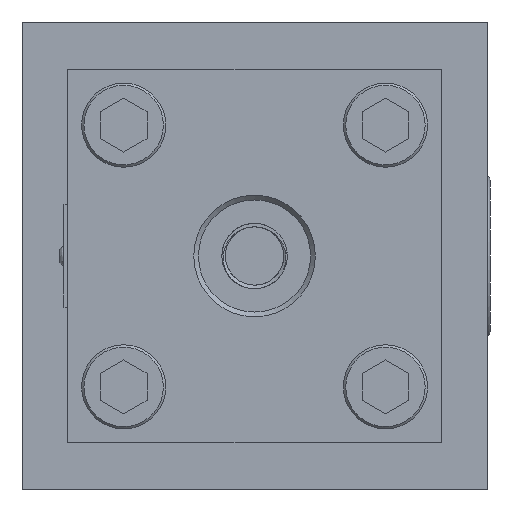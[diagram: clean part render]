
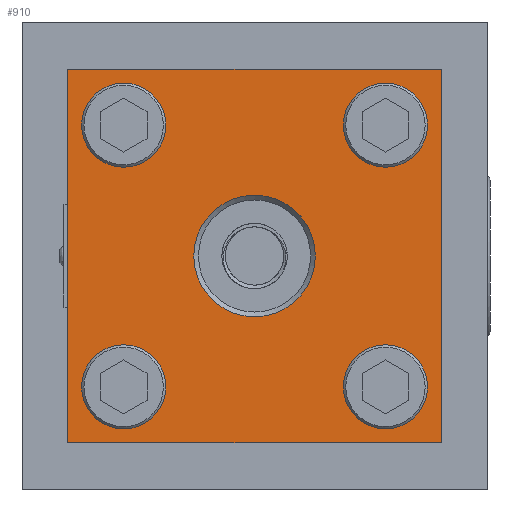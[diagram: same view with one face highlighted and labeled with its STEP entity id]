
A CAD part, left-side view. The second image highlights one B-rep face of the part: STEP entity #910.
In plain terms, the highlighted planar face has unit normal (-1, 0, 0).
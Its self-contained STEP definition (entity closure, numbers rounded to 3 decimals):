
#302=PLANE('',#2960);
#394=LINE('',#4566,#538);
#395=LINE('',#4569,#539);
#396=LINE('',#4571,#540);
#397=LINE('',#4573,#541);
#538=VECTOR('',#3243,1.);
#539=VECTOR('',#3244,1.);
#540=VECTOR('',#3245,1.);
#541=VECTOR('',#3246,1.);
#682=FACE_BOUND('',#1239,.T.);
#683=FACE_BOUND('',#1240,.T.);
#684=FACE_BOUND('',#1241,.T.);
#685=FACE_BOUND('',#1242,.T.);
#686=FACE_BOUND('',#1243,.T.);
#687=FACE_BOUND('',#1244,.T.);
#910=ADVANCED_FACE('',(#682,#683,#684,#685,#686,#687),#302,.F.);
#1239=EDGE_LOOP('',(#1616));
#1240=EDGE_LOOP('',(#1617));
#1241=EDGE_LOOP('',(#1618));
#1242=EDGE_LOOP('',(#1619));
#1243=EDGE_LOOP('',(#1620));
#1244=EDGE_LOOP('',(#1621,#1622,#1623,#1624));
#1616=ORIENTED_EDGE('',*,*,#2527,.T.);
#1617=ORIENTED_EDGE('',*,*,#2528,.T.);
#1618=ORIENTED_EDGE('',*,*,#2529,.T.);
#1619=ORIENTED_EDGE('',*,*,#2530,.T.);
#1620=ORIENTED_EDGE('',*,*,#2531,.F.);
#1621=ORIENTED_EDGE('',*,*,#2532,.T.);
#1622=ORIENTED_EDGE('',*,*,#2533,.F.);
#1623=ORIENTED_EDGE('',*,*,#2534,.F.);
#1624=ORIENTED_EDGE('',*,*,#2535,.T.);
#2264=VERTEX_POINT('',#4557);
#2265=VERTEX_POINT('',#4559);
#2266=VERTEX_POINT('',#4561);
#2267=VERTEX_POINT('',#4563);
#2268=VERTEX_POINT('',#4565);
#2269=VERTEX_POINT('',#4567);
#2270=VERTEX_POINT('',#4568);
#2271=VERTEX_POINT('',#4570);
#2272=VERTEX_POINT('',#4572);
#2527=EDGE_CURVE('',#2264,#2264,#2847,.T.);
#2528=EDGE_CURVE('',#2265,#2265,#2848,.T.);
#2529=EDGE_CURVE('',#2266,#2266,#2849,.T.);
#2530=EDGE_CURVE('',#2267,#2267,#2850,.T.);
#2531=EDGE_CURVE('',#2268,#2268,#2851,.T.);
#2532=EDGE_CURVE('',#2269,#2270,#394,.T.);
#2533=EDGE_CURVE('',#2271,#2270,#395,.T.);
#2534=EDGE_CURVE('',#2272,#2271,#396,.T.);
#2535=EDGE_CURVE('',#2272,#2269,#397,.T.);
#2847=CIRCLE('',#2955,9.);
#2848=CIRCLE('',#2956,9.);
#2849=CIRCLE('',#2957,9.);
#2850=CIRCLE('',#2958,9.);
#2851=CIRCLE('',#2959,13.);
#2955=AXIS2_PLACEMENT_3D('',#4556,#3233,#3234);
#2956=AXIS2_PLACEMENT_3D('',#4558,#3235,#3236);
#2957=AXIS2_PLACEMENT_3D('',#4560,#3237,#3238);
#2958=AXIS2_PLACEMENT_3D('',#4562,#3239,#3240);
#2959=AXIS2_PLACEMENT_3D('',#4564,#3241,#3242);
#2960=AXIS2_PLACEMENT_3D('',#4574,#3247,#3248);
#3233=DIRECTION('',(1.,0.,0.));
#3234=DIRECTION('',(0.,0.,-1.));
#3235=DIRECTION('',(1.,0.,0.));
#3236=DIRECTION('',(0.,0.,-1.));
#3237=DIRECTION('',(1.,0.,0.));
#3238=DIRECTION('',(0.,0.,-1.));
#3239=DIRECTION('',(1.,0.,0.));
#3240=DIRECTION('',(0.,0.,-1.));
#3241=DIRECTION('',(-1.,0.,0.));
#3242=DIRECTION('',(0.,0.,1.));
#3243=DIRECTION('',(0.,-1.,0.));
#3244=DIRECTION('',(0.,0.,-1.));
#3245=DIRECTION('',(0.,-1.,0.));
#3246=DIRECTION('',(0.,0.,-1.));
#3247=DIRECTION('',(1.,0.,0.));
#3248=DIRECTION('',(0.,0.,1.));
#4556=CARTESIAN_POINT('',(-20.228,237.661,-28.));
#4557=CARTESIAN_POINT('',(-20.228,237.661,-37.));
#4558=CARTESIAN_POINT('',(-20.228,237.661,28.));
#4559=CARTESIAN_POINT('',(-20.228,237.661,19.));
#4560=CARTESIAN_POINT('',(-20.228,293.661,-28.));
#4561=CARTESIAN_POINT('',(-20.228,293.661,-37.));
#4562=CARTESIAN_POINT('',(-20.228,293.661,28.));
#4563=CARTESIAN_POINT('',(-20.228,293.661,19.));
#4564=CARTESIAN_POINT('',(-20.228,265.661,0.));
#4565=CARTESIAN_POINT('',(-20.228,265.661,13.));
#4566=CARTESIAN_POINT('',(-20.228,304.661,-40.));
#4567=CARTESIAN_POINT('',(-20.228,305.661,-40.));
#4568=CARTESIAN_POINT('',(-20.228,225.661,-40.));
#4569=CARTESIAN_POINT('',(-20.228,225.661,40.));
#4570=CARTESIAN_POINT('',(-20.228,225.661,40.));
#4571=CARTESIAN_POINT('',(-20.228,304.661,40.));
#4572=CARTESIAN_POINT('',(-20.228,305.661,40.));
#4573=CARTESIAN_POINT('',(-20.228,305.661,40.));
#4574=CARTESIAN_POINT('',(-20.228,304.661,40.));
